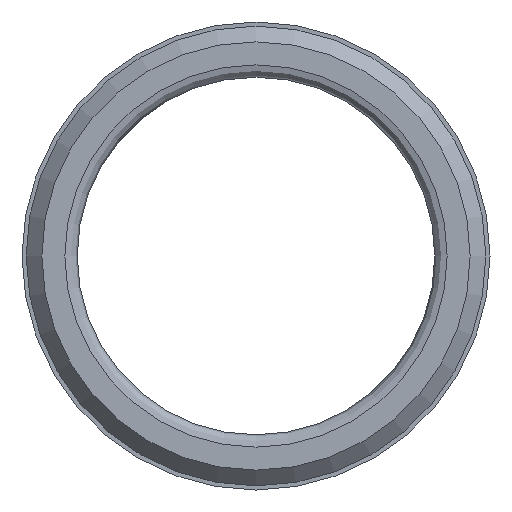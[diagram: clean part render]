
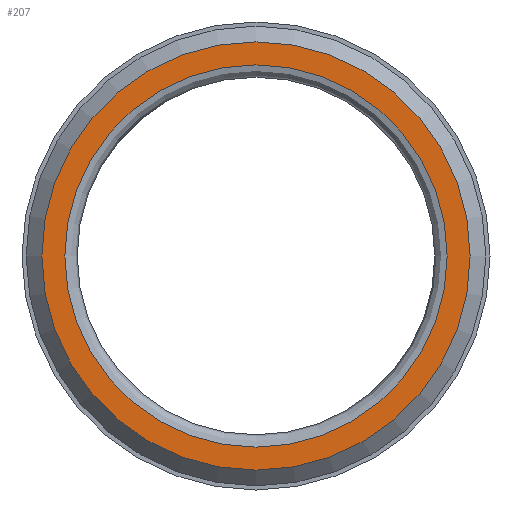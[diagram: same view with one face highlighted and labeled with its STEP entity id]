
A CAD part, front view. The second image highlights one B-rep face of the part: STEP entity #207.
In plain terms, the highlighted planar face has unit normal (0, -1, 0).
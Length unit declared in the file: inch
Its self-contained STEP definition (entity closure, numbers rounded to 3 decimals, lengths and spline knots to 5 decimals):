
#22=FACE_BOUND('',#44,.T.);
#26=PLANE('',#236);
#31=FACE_OUTER_BOUND('',#43,.T.);
#43=EDGE_LOOP('',(#150));
#44=EDGE_LOOP('',(#151,#152));
#68=CIRCLE('',#233,0.1725);
#71=CIRCLE('',#237,0.154);
#72=CIRCLE('',#238,0.154);
#93=VERTEX_POINT('',#352);
#96=VERTEX_POINT('',#360);
#97=VERTEX_POINT('',#361);
#115=EDGE_CURVE('',#93,#93,#68,.T.);
#119=EDGE_CURVE('',#96,#97,#71,.T.);
#120=EDGE_CURVE('',#97,#96,#72,.T.);
#150=ORIENTED_EDGE('',*,*,#115,.F.);
#151=ORIENTED_EDGE('',*,*,#119,.F.);
#152=ORIENTED_EDGE('',*,*,#120,.F.);
#207=ADVANCED_FACE('',(#31,#22),#26,.T.);
#233=AXIS2_PLACEMENT_3D('',#353,#273,#274);
#236=AXIS2_PLACEMENT_3D('',#359,#280,#281);
#237=AXIS2_PLACEMENT_3D('',#362,#282,#283);
#238=AXIS2_PLACEMENT_3D('',#363,#284,#285);
#273=DIRECTION('center_axis',(0.,1.,0.));
#274=DIRECTION('ref_axis',(0.,0.,1.));
#280=DIRECTION('center_axis',(0.,-1.,0.));
#281=DIRECTION('ref_axis',(0.,0.,-1.));
#282=DIRECTION('center_axis',(0.,-1.,0.));
#283=DIRECTION('ref_axis',(0.,0.,1.));
#284=DIRECTION('center_axis',(0.,-1.,0.));
#285=DIRECTION('ref_axis',(0.,0.,1.));
#352=CARTESIAN_POINT('',(0.,0.,-0.1725));
#353=CARTESIAN_POINT('Origin',(0.,0.,0.));
#359=CARTESIAN_POINT('Origin',(0.,0.,-0.144));
#360=CARTESIAN_POINT('',(0.,0.,-0.154));
#361=CARTESIAN_POINT('',(0.,0.,0.154));
#362=CARTESIAN_POINT('Origin',(0.,0.,0.));
#363=CARTESIAN_POINT('Origin',(0.,0.,0.));
